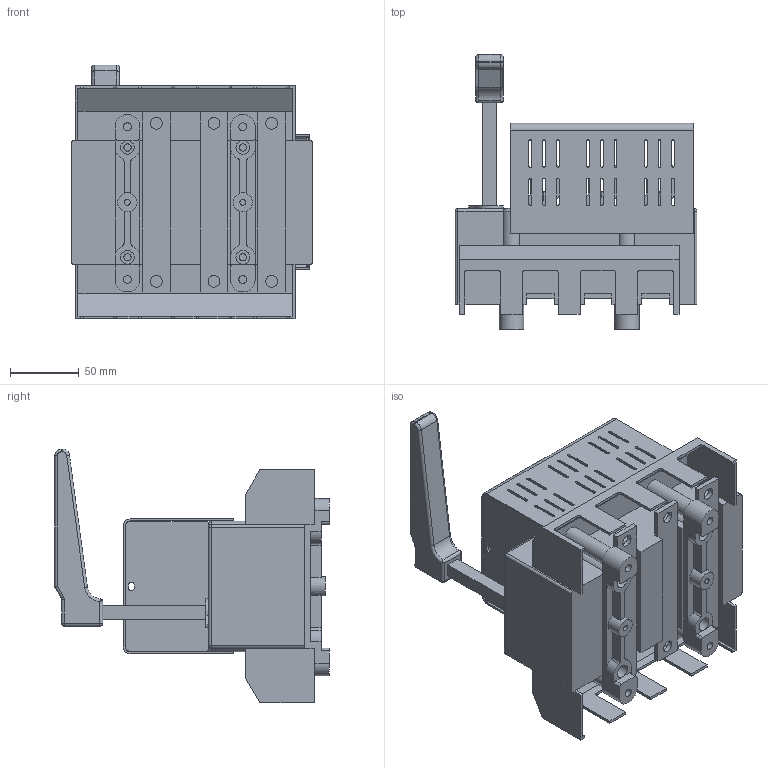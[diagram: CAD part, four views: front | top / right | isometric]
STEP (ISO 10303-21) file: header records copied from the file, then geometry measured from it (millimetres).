
FILE_DESCRIPTION(/* description */ (''),/* implementation_level */ '2;1');
FILE_NAME(/* name */ 'RAB 00 P3-R z oslona zaciskow.stp',/* time_stamp */ '2021-08-19T10:54:21+02:00',/* author */ (''),/* organization */ (''),/* preprocessor_version */ 'ST-DEVELOPER v18.1',/* originating_system */ 'SIEMENS PLM Software NX 1965',/* authorisation */ '');
FILE_SCHEMA (('AUTOMOTIVE_DESIGN { 1 0 10303 214 3 1 1 1 }'));
Length unit declared in the file: millimetre
Products named in the file (1): RAB 00 P3-R z oslona zaciskow
Bounding box: 176 x 200 x 184.9 mm (x, y, z)
Volume: 1368861.1 mm3; surface area: 287420.9 mm2
Topology: 1 solids, 1 shells, 964 faces, 2747 edges, 1792 vertices
Faces by surface type: plane 606, cylinder 336, torus 12, sphere 10
Full cylindrical faces by diameter (mm): 2.7 x4, 4.3 x2, 5 x6, 5.3 x4, 5.8 x4, 8.5 x6, 10 x12, 13 x4, 14 x2
Entity records: 31157 total; most frequent: CARTESIAN_POINT 5577, ORIENTED_EDGE 5306, DIRECTION 5267, EDGE_CURVE 2653, LINE 1921, VECTOR 1921, VERTEX_POINT 1744, AXIS2_PLACEMENT_3D 1673
